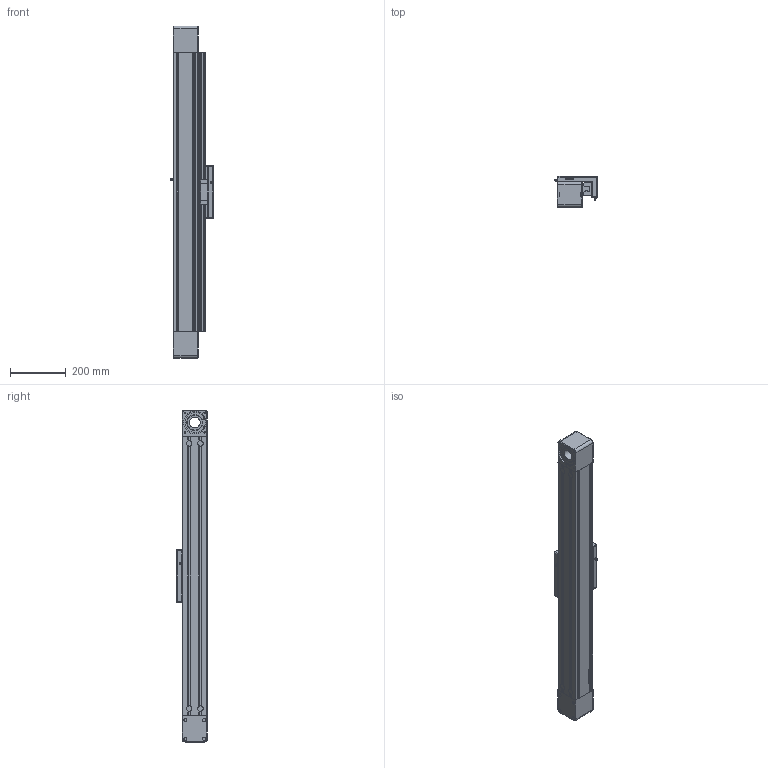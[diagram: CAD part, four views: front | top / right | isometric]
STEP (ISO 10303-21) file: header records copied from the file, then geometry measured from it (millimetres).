
FILE_DESCRIPTION(/* description */ ('00'),/* implementation_level */ '2;1');
FILE_NAME(/* name */ 'D:\EVOLVE\STUDIO_EVOLVE\LIBRERIA_MODELLI\UNITÀ_BELT_SERIE_D\UBD_SIMPLIFIED\UBD_090_S+_TS38_X0810_C1_SIMPLIFIED.stp',/* time_stamp */ '2022-04-13T17:03:34+02:00',/* author */ ('Daniel'),/* organization */ (''),/* preprocessor_version */ 'ST-DEVELOPER v18.1',/* originating_system */ 'Autodesk Inventor 2021',/* authorisation */ '');
FILE_SCHEMA (('AUTOMOTIVE_DESIGN { 1 0 10303 214 3 1 1 }'));
Length unit declared in the file: millimetre
Products named in the file (5): UBD_090_S+_TS38_X0810_C1_SIMPLIFIED; AS_UBD_090_+_L1000_SIMPLIFIED; TS_UBD_090_38_SIMPLIFIED; TS_UBD_090_F_SIMPLIFIED; CR_UBD_090_S+_SIMPLIFIED
Assembly tree (4 placements, depth 2):
  UBD_090_S+_TS38_X0810_C1_SIMPLIFIED
    AS_UBD_090_+_L1000_SIMPLIFIED
    TS_UBD_090_38_SIMPLIFIED
    TS_UBD_090_F_SIMPLIFIED
    CR_UBD_090_S+_SIMPLIFIED
Bounding box: 152.8 x 110 x 1190 mm (x, y, z)
Volume: 9698400 mm3; surface area: 1040193 mm2
Topology: 70 solids, 70 shells, 925 faces, 2185 edges, 1432 vertices
Faces by surface type: plane 532, cylinder 315, cone 48, torus 14, sphere 11, bspline 5
Full cylindrical faces by diameter (mm): 0.112 x1, 3 x4, 4.917 x8, 6.647 x15, 8 x2, 11.2 x66, 13 x4, 20 x8, 38 x1, 55 x2, 80 x2, 83.5 x2
Entity records: 27986 total; most frequent: CARTESIAN_POINT 5692, DIRECTION 4537, ORIENTED_EDGE 4350, EDGE_CURVE 2175, AXIS2_PLACEMENT_3D 1599, VERTEX_POINT 1432, LINE 1339, VECTOR 1339
